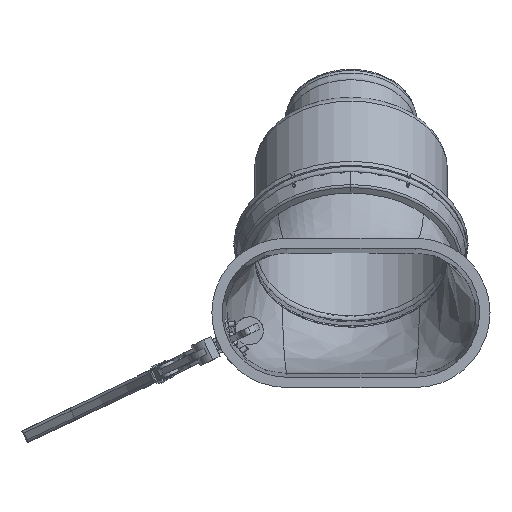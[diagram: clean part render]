
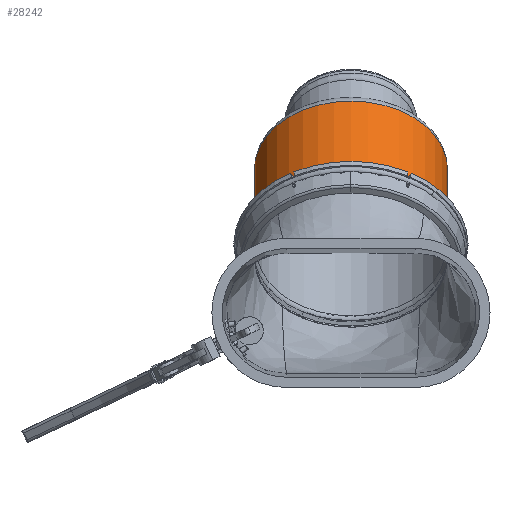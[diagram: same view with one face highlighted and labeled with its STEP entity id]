
A CAD part, top view. The second image highlights one B-rep face of the part: STEP entity #28242.
In plain terms, the highlighted cylindrical face has radius 75 mm (diameter 150 mm), a partial arc.
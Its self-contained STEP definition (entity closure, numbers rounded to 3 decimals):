
#26041=DIRECTION('',(0.,1.,0.));
#26042=VECTOR('',#26041,87.205);
#26043=CARTESIAN_POINT('',(75.,11.025,0.));
#26044=LINE('',#26043,#26042);
#26045=CARTESIAN_POINT('',(0.,11.025,0.));
#26046=DIRECTION('',(0.,-1.,0.));
#26047=DIRECTION('',(1.,0.,0.));
#26048=AXIS2_PLACEMENT_3D('',#26045,#26046,#26047);
#26050=DIRECTION('',(0.,1.,0.));
#26051=VECTOR('',#26050,87.205);
#26052=CARTESIAN_POINT('',(-75.,11.025,0.));
#26053=LINE('',#26052,#26051);
#26054=CARTESIAN_POINT('',(0.,98.23,0.));
#26055=DIRECTION('',(0.,1.,0.));
#26056=DIRECTION('',(-1.,0.,0.));
#26057=AXIS2_PLACEMENT_3D('',#26054,#26055,#26056);
#26363=CARTESIAN_POINT('',(75.,11.025,0.));
#26364=VERTEX_POINT('',#26363);
#26367=CARTESIAN_POINT('',(-75.,11.025,0.));
#26368=VERTEX_POINT('',#26367);
#26369=CARTESIAN_POINT('',(75.,98.23,0.));
#26370=VERTEX_POINT('',#26369);
#26371=CARTESIAN_POINT('',(-75.,98.23,0.));
#26372=VERTEX_POINT('',#26371);
#28228=CARTESIAN_POINT('',(0.,0.,0.));
#28229=DIRECTION('',(0.,1.,0.));
#28230=DIRECTION('',(1.,0.,0.));
#28231=AXIS2_PLACEMENT_3D('',#28228,#28229,#28230);
#28232=CYLINDRICAL_SURFACE('',#28231,75.);
#28234=ORIENTED_EDGE('',*,*,#28233,.F.);
#28236=ORIENTED_EDGE('',*,*,#28235,.T.);
#28238=ORIENTED_EDGE('',*,*,#28237,.T.);
#28239=ORIENTED_EDGE('',*,*,#28222,.T.);
#28240=EDGE_LOOP('',(#28234,#28236,#28238,#28239));
#28241=FACE_OUTER_BOUND('',#28240,.F.);
#26049=CIRCLE('',#26048,75.);
#26058=CIRCLE('',#26057,75.);
#28222=EDGE_CURVE('',#26372,#26370,#26058,.T.);
#28233=EDGE_CURVE('',#26364,#26370,#26044,.T.);
#28235=EDGE_CURVE('',#26364,#26368,#26049,.T.);
#28237=EDGE_CURVE('',#26368,#26372,#26053,.T.);
#28242=ADVANCED_FACE('',(#28241),#28232,.T.);
